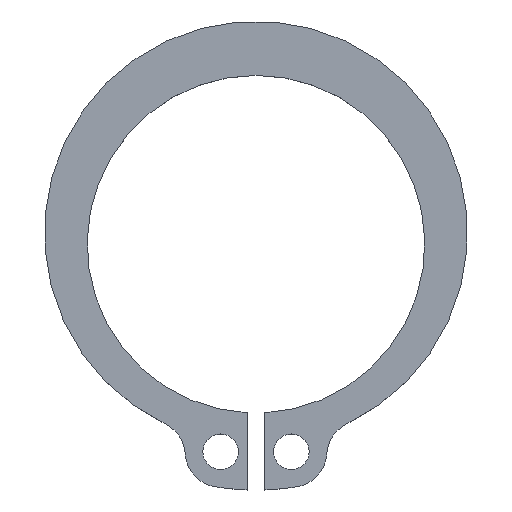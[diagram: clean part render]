
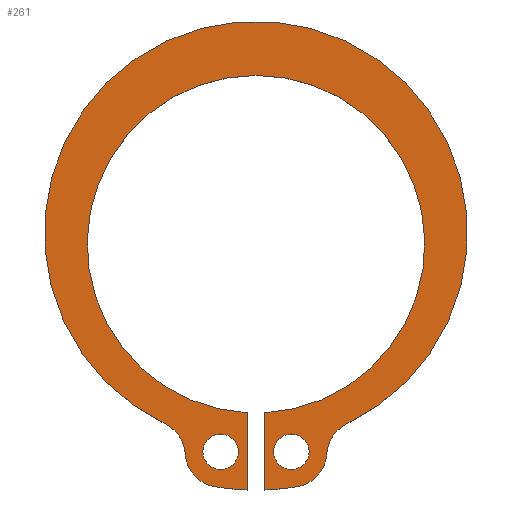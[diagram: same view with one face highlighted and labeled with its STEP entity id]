
A CAD part, top view. The second image highlights one B-rep face of the part: STEP entity #261.
In plain terms, the highlighted planar face has unit normal (0, 0, 1).
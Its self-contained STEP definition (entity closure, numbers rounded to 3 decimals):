
#15=FACE_BOUND('',#50,.T.);
#16=FACE_BOUND('',#51,.T.);
#21=PLANE('',#318);
#35=FACE_OUTER_BOUND('',#49,.T.);
#49=EDGE_LOOP('',(#215,#216,#217,#218,#219,#220,#221,#222,#223,#224));
#50=EDGE_LOOP('',(#225));
#51=EDGE_LOOP('',(#226));
#64=LINE('',#460,#80);
#68=LINE('',#472,#84);
#80=VECTOR('',#381,10.);
#84=VECTOR('',#393,10.);
#88=CIRCLE('',#288,0.85);
#90=CIRCLE('',#291,0.85);
#91=CIRCLE('',#293,1.7);
#93=CIRCLE('',#296,1.7);
#95=CIRCLE('',#299,10.15);
#97=CIRCLE('',#302,1.7);
#99=CIRCLE('',#305,1.7);
#101=CIRCLE('',#308,11.797);
#103=CIRCLE('',#312,8.1);
#105=CIRCLE('',#316,11.797);
#108=VERTEX_POINT('',#410);
#110=VERTEX_POINT('',#416);
#111=VERTEX_POINT('',#420);
#112=VERTEX_POINT('',#421);
#115=VERTEX_POINT('',#429);
#117=VERTEX_POINT('',#435);
#119=VERTEX_POINT('',#441);
#121=VERTEX_POINT('',#447);
#123=VERTEX_POINT('',#453);
#125=VERTEX_POINT('',#459);
#127=VERTEX_POINT('',#465);
#129=VERTEX_POINT('',#471);
#133=EDGE_CURVE('',#108,#108,#88,.T.);
#136=EDGE_CURVE('',#110,#110,#90,.T.);
#137=EDGE_CURVE('',#111,#112,#91,.T.);
#141=EDGE_CURVE('',#112,#115,#93,.T.);
#144=EDGE_CURVE('',#115,#117,#95,.T.);
#147=EDGE_CURVE('',#117,#119,#97,.T.);
#150=EDGE_CURVE('',#119,#121,#99,.T.);
#153=EDGE_CURVE('',#121,#123,#101,.T.);
#156=EDGE_CURVE('',#123,#125,#64,.T.);
#159=EDGE_CURVE('',#125,#127,#103,.T.);
#162=EDGE_CURVE('',#127,#129,#68,.T.);
#165=EDGE_CURVE('',#129,#111,#105,.T.);
#215=ORIENTED_EDGE('',*,*,#137,.F.);
#216=ORIENTED_EDGE('',*,*,#165,.F.);
#217=ORIENTED_EDGE('',*,*,#162,.F.);
#218=ORIENTED_EDGE('',*,*,#159,.F.);
#219=ORIENTED_EDGE('',*,*,#156,.F.);
#220=ORIENTED_EDGE('',*,*,#153,.F.);
#221=ORIENTED_EDGE('',*,*,#150,.F.);
#222=ORIENTED_EDGE('',*,*,#147,.F.);
#223=ORIENTED_EDGE('',*,*,#144,.F.);
#224=ORIENTED_EDGE('',*,*,#141,.F.);
#225=ORIENTED_EDGE('',*,*,#133,.T.);
#226=ORIENTED_EDGE('',*,*,#136,.T.);
#261=ADVANCED_FACE('',(#35,#15,#16),#21,.T.);
#288=AXIS2_PLACEMENT_3D('',#412,#327,#328);
#291=AXIS2_PLACEMENT_3D('',#418,#334,#335);
#293=AXIS2_PLACEMENT_3D('',#422,#338,#339);
#296=AXIS2_PLACEMENT_3D('',#430,#346,#347);
#299=AXIS2_PLACEMENT_3D('',#436,#353,#354);
#302=AXIS2_PLACEMENT_3D('',#442,#360,#361);
#305=AXIS2_PLACEMENT_3D('',#448,#367,#368);
#308=AXIS2_PLACEMENT_3D('',#454,#374,#375);
#312=AXIS2_PLACEMENT_3D('',#466,#386,#387);
#316=AXIS2_PLACEMENT_3D('',#477,#398,#399);
#318=AXIS2_PLACEMENT_3D('',#479,#402,#403);
#327=DIRECTION('center_axis',(0.,0.,-1.));
#328=DIRECTION('ref_axis',(-1.,0.,0.));
#334=DIRECTION('center_axis',(0.,0.,-1.));
#335=DIRECTION('ref_axis',(-1.,0.,0.));
#338=DIRECTION('center_axis',(0.,0.,-1.));
#339=DIRECTION('ref_axis',(0.998,0.058,0.));
#346=DIRECTION('center_axis',(0.,0.,1.));
#347=DIRECTION('ref_axis',(0.998,0.058,0.));
#353=DIRECTION('center_axis',(0.,0.,-1.));
#354=DIRECTION('ref_axis',(-0.43,0.903,0.));
#360=DIRECTION('center_axis',(0.,0.,1.));
#361=DIRECTION('ref_axis',(-0.43,0.903,0.));
#367=DIRECTION('center_axis',(0.,0.,-1.));
#368=DIRECTION('ref_axis',(-0.168,0.986,0.));
#374=DIRECTION('center_axis',(0.,0.,-1.));
#375=DIRECTION('ref_axis',(-0.036,0.999,0.));
#381=DIRECTION('',(0.,1.,0.));
#386=DIRECTION('center_axis',(0.,0.,1.));
#387=DIRECTION('ref_axis',(0.052,-0.999,0.));
#393=DIRECTION('',(0.,-1.,0.));
#398=DIRECTION('center_axis',(0.,0.,-1.));
#399=DIRECTION('ref_axis',(0.168,0.986,0.));
#402=DIRECTION('center_axis',(0.,0.,1.));
#403=DIRECTION('ref_axis',(1.,0.,0.));
#410=CARTESIAN_POINT('',(2.55,-18.452,1.));
#412=CARTESIAN_POINT('Origin',(1.7,-18.452,1.));
#416=CARTESIAN_POINT('',(-0.85,-18.452,1.));
#418=CARTESIAN_POINT('Origin',(-1.7,-18.452,1.));
#420=CARTESIAN_POINT('',(-1.986,-20.128,1.));
#421=CARTESIAN_POINT('',(-3.397,-18.551,1.));
#422=CARTESIAN_POINT('Origin',(-1.7,-18.452,1.));
#429=CARTESIAN_POINT('',(-4.363,-17.114,1.));
#430=CARTESIAN_POINT('Origin',(-5.094,-18.649,1.));
#435=CARTESIAN_POINT('',(4.363,-17.114,1.));
#436=CARTESIAN_POINT('Origin',(0.,-7.95,1.));
#441=CARTESIAN_POINT('',(3.397,-18.551,1.));
#442=CARTESIAN_POINT('Origin',(5.094,-18.649,1.));
#447=CARTESIAN_POINT('',(1.986,-20.128,1.));
#448=CARTESIAN_POINT('Origin',(1.7,-18.452,1.));
#453=CARTESIAN_POINT('',(0.425,-20.289,1.));
#454=CARTESIAN_POINT('Origin',(0.,-8.5,1.));
#459=CARTESIAN_POINT('',(0.425,-16.589,1.));
#460=CARTESIAN_POINT('',(0.425,-20.289,1.));
#465=CARTESIAN_POINT('',(-0.425,-16.589,1.));
#466=CARTESIAN_POINT('Origin',(0.,-8.5,1.));
#471=CARTESIAN_POINT('',(-0.425,-20.289,1.));
#472=CARTESIAN_POINT('',(-0.425,-16.589,1.));
#477=CARTESIAN_POINT('Origin',(0.,-8.5,1.));
#479=CARTESIAN_POINT('Origin',(0.,-9.81,
1.));
